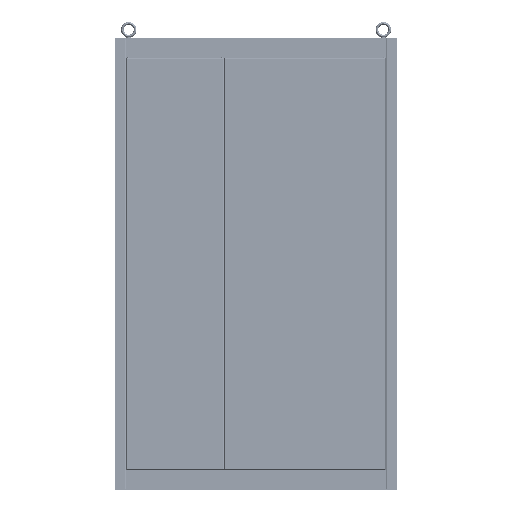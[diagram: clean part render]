
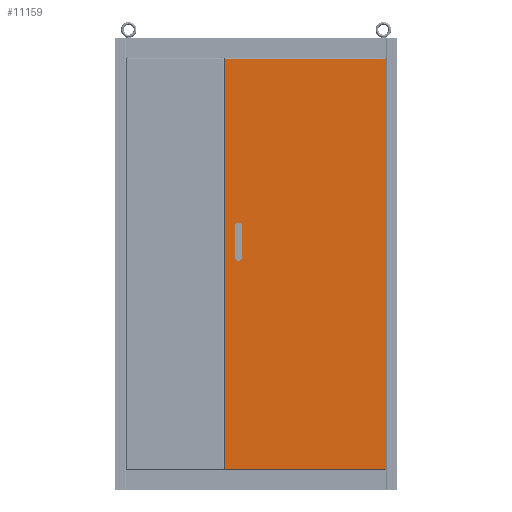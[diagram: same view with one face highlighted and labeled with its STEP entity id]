
A CAD part, left-side view. The second image highlights one B-rep face of the part: STEP entity #11159.
In plain terms, the highlighted planar face has unit normal (-1, 0, 0) as drawn and (0, 1, 0) by its records, which use the part's own axes.
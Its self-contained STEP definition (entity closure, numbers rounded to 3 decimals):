
#11159=ADVANCED_FACE('',(#29566,#29568),#29570,.T.);
#29566=FACE_BOUND('',#29567,.T.);
#29567=EDGE_LOOP('',(#50738,#50739,#50740,#50741));
#29568=FACE_BOUND('',#29569,.T.);
#29569=EDGE_LOOP('',(#50742,#50743,#50744,#50745));
#29570=PLANE('',#29571);
#29571=AXIS2_PLACEMENT_3D('',#29572,#29573,#29574);
#29572=CARTESIAN_POINT('',(0.,20.,0.));
#29573=DIRECTION('',(0.,1.,0.));
#29574=DIRECTION('',(0.,0.,1.));
#50738=ORIENTED_EDGE('',*,*,#63107,.T.);
#50739=ORIENTED_EDGE('',*,*,#63104,.T.);
#50740=ORIENTED_EDGE('',*,*,#63114,.T.);
#50741=ORIENTED_EDGE('',*,*,#63111,.T.);
#50742=ORIENTED_EDGE('',*,*,#63124,.T.);
#50743=ORIENTED_EDGE('',*,*,#63125,.T.);
#50744=ORIENTED_EDGE('',*,*,#63126,.T.);
#50745=ORIENTED_EDGE('',*,*,#63127,.T.);
#63104=EDGE_CURVE('',#74461,#74459,#74462,.T.);
#63107=EDGE_CURVE('',#74465,#74461,#74466,.T.);
#63111=EDGE_CURVE('',#74470,#74465,#74471,.T.);
#63114=EDGE_CURVE('',#74459,#74470,#74474,.T.);
#63124=EDGE_CURVE('',#74488,#74489,#74490,.F.);
#63125=EDGE_CURVE('',#74489,#74491,#74492,.F.);
#63126=EDGE_CURVE('',#74491,#74493,#74494,.F.);
#63127=EDGE_CURVE('',#74493,#74488,#74495,.F.);
#74459=VERTEX_POINT('',#101396);
#74461=VERTEX_POINT('',#101401);
#74462=LINE('',#101402,#101403);
#74465=VERTEX_POINT('',#101413);
#74466=LINE('',#101414,#101415);
#74470=VERTEX_POINT('',#101444);
#74471=LINE('',#101445,#101446);
#74474=LINE('',#101456,#101457);
#74488=VERTEX_POINT('',#101493);
#74489=VERTEX_POINT('',#101494);
#74490=LINE('',#101495,#101496);
#74491=VERTEX_POINT('',#101498);
#74492=CIRCLE('',#101499,13.5);
#74493=VERTEX_POINT('',#101503);
#74494=LINE('',#101504,#101505);
#74495=CIRCLE('',#101507,13.5);
#101396=CARTESIAN_POINT('',(282.6,20.,725.6));
#101401=CARTESIAN_POINT('',(-282.6,20.,725.6));
#101402=CARTESIAN_POINT('',(-282.6,20.,725.6));
#101403=VECTOR('',#101404,1.);
#101404=DIRECTION('',(1.,0.,0.));
#101413=CARTESIAN_POINT('',(-282.6,20.,-725.6));
#101414=CARTESIAN_POINT('',(-282.6,20.,-725.6));
#101415=VECTOR('',#101416,1.);
#101416=DIRECTION('',(0.,0.,1.));
#101444=CARTESIAN_POINT('',(282.6,20.,-725.6));
#101445=CARTESIAN_POINT('',(282.6,20.,-725.6));
#101446=VECTOR('',#101447,1.);
#101447=DIRECTION('',(-1.,0.,0.));
#101456=CARTESIAN_POINT('',(282.6,20.,725.6));
#101457=VECTOR('',#101458,1.);
#101458=DIRECTION('',(0.,0.,-1.));
#101493=CARTESIAN_POINT('',(-221.5,20.,-132.25));
#101494=CARTESIAN_POINT('',(-221.5,20.,-23.75));
#101495=CARTESIAN_POINT('',(-221.5,20.,-23.75));
#101496=VECTOR('',#101497,1.);
#101497=DIRECTION('',(0.,0.,-1.));
#101498=CARTESIAN_POINT('',(-248.5,20.,-23.75));
#101499=AXIS2_PLACEMENT_3D('',#101500,#101501,#101502);
#101500=CARTESIAN_POINT('',(-235.,20.,-23.75));
#101501=DIRECTION('',(0.,1.,0.));
#101502=DIRECTION('',(-1.,0.,0.));
#101503=CARTESIAN_POINT('',(-248.5,20.,-132.25));
#101504=CARTESIAN_POINT('',(-248.5,20.,-132.25));
#101505=VECTOR('',#101506,1.);
#101506=DIRECTION('',(0.,0.,1.));
#101507=AXIS2_PLACEMENT_3D('',#101508,#101509,#101510);
#101508=CARTESIAN_POINT('',(-235.,20.,-132.25));
#101509=DIRECTION('',(0.,1.,0.));
#101510=DIRECTION('',(1.,0.,0.));
